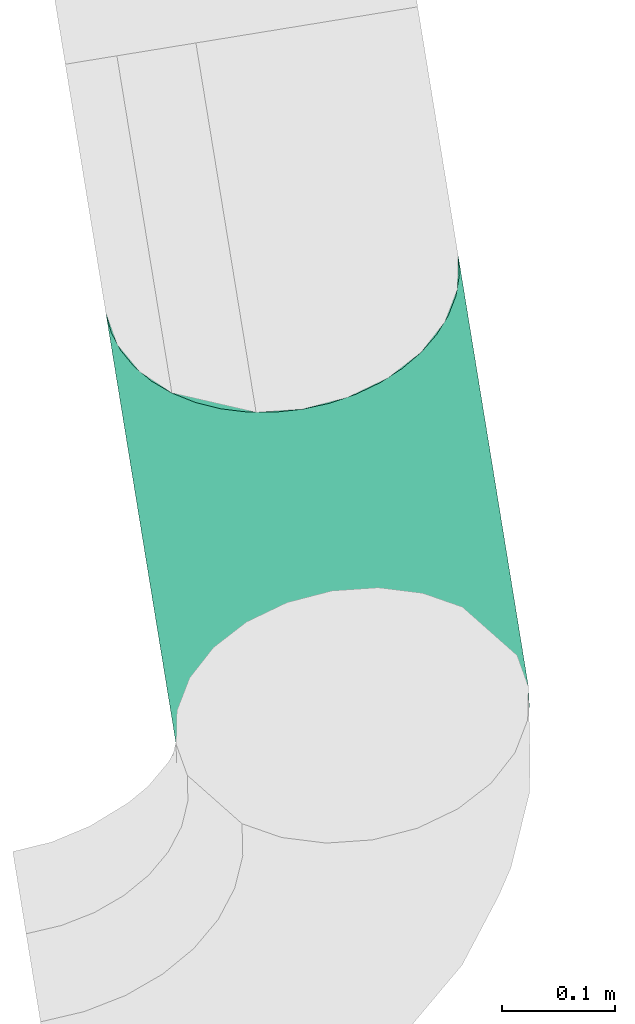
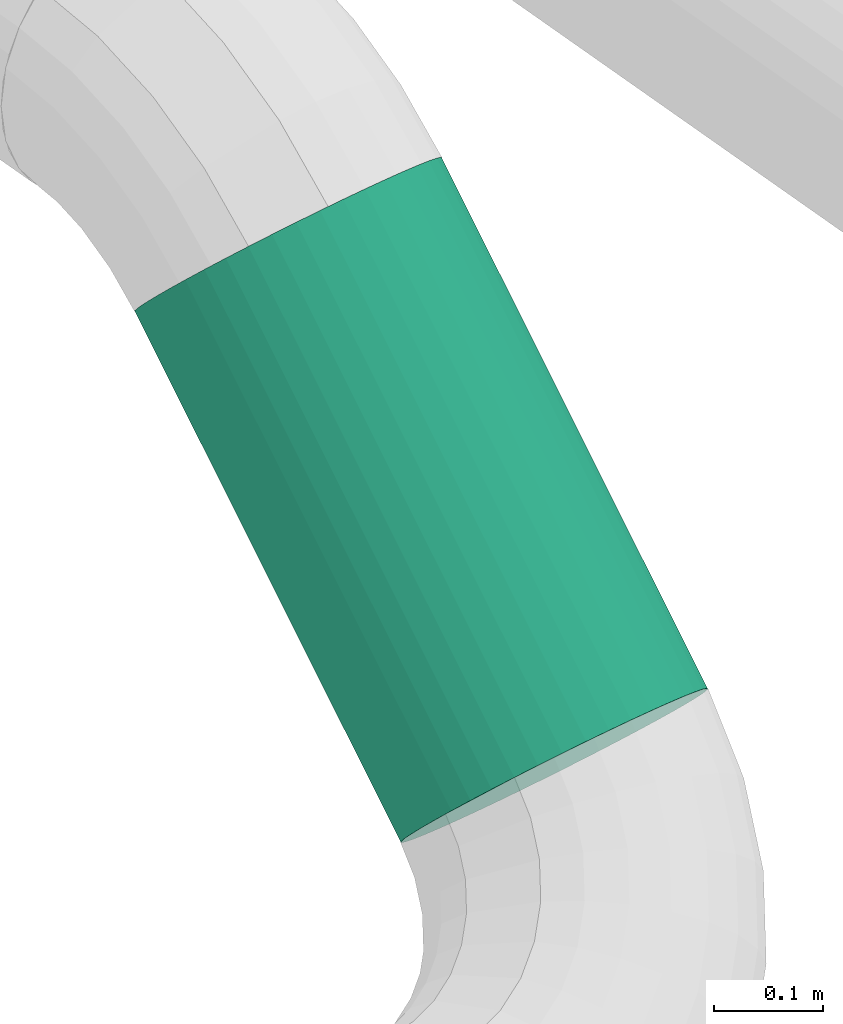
# One storey, part 6 of 15: 1 flow segment.
"""IFC2X3 building model written with IfcOpenShell, lengths in millimetres."""

from ifc_helpers import new_model, entity, si_unit, converted_unit, derived_unit, direction, frame, frame_2d, origin, origin_with_axes, place, context, subcontext, project, spatial, circle, extrude, material, type_object, element, save


model = new_model("IFC2X3")

# Units and contexts
model_context = context("Model", 3, precision=0.01, world=origin(), true_north=direction((6.12323399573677e-17, 1.0)))
plan_context = context("Plan", 3, precision=1e-05, world=origin_with_axes())
body_context = subcontext(model_context, "Body", "Model", "MODEL_VIEW")
ifc_project = project(units=[converted_unit("PLANEANGLEUNIT", "DEGREE", entity("IfcPositiveLengthMeasure", 0.0174532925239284), si_unit("PLANEANGLEUNIT", "RADIAN"), dimensions=[0, 0, 0, 0, 0, 0, 0]), si_unit("AREAUNIT", "SQUARE_METRE"), si_unit("LENGTHUNIT", "METRE", prefix="MILLI"), si_unit("MASSUNIT", "GRAM", prefix="KILO"), si_unit("POWERUNIT", "WATT"), si_unit("PRESSUREUNIT", "PASCAL", prefix="KILO"), si_unit("FORCEUNIT", "NEWTON", prefix="KILO"), si_unit("ELECTRICVOLTAGEUNIT", "VOLT"), si_unit("ELECTRICCURRENTUNIT", "AMPERE"), si_unit("THERMODYNAMICTEMPERATUREUNIT", "DEGREE_CELSIUS"), si_unit("TIMEUNIT", "SECOND"), si_unit("VOLUMEUNIT", "CUBIC_METRE"), derived_unit("LINEARVELOCITYUNIT", [(si_unit("LENGTHUNIT", "METRE"), 1), (si_unit("TIMEUNIT", "SECOND"), -1)]), derived_unit("VOLUMETRICFLOWRATEUNIT", [(si_unit("VOLUMEUNIT", "CUBIC_METRE"), 1), (si_unit("TIMEUNIT", "SECOND"), -1)]), derived_unit("THERMALTRANSMITTANCEUNIT", [(si_unit("POWERUNIT", "WATT"), 1), (si_unit("THERMODYNAMICTEMPERATUREUNIT", "KELVIN"), -1), (si_unit("AREAUNIT", "SQUARE_METRE"), -1)]), derived_unit("SOUNDPRESSUREUNIT", [(si_unit("PRESSUREUNIT", "PASCAL"), 1)])], contexts=[model_context, plan_context])

# Site, building, storey
site_placement = place(None, frame((5.09380697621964e-08, 5.80416781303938e-08, 0.0), z_axis=(0.0, 0.0, 1.0), x_axis=(-0.160806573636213, 0.986985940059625, 0.0)))
site = spatial("IfcSite", under=ifc_project, at=site_placement, Name="Default", CompositionType="ELEMENT")
building_placement = place(site_placement, frame((0.0, 0.0, 0.0), z_axis=(0.0, 0.0, 1.0), x_axis=(1.0, -2.77555756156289e-17, 0.0)))
building = spatial("IfcBuilding", under=site, at=building_placement, Name="Bygning (endres i Project Information)", CompositionType="ELEMENT")
storey_placement = place(building_placement, frame((0.0, 0.0, 51360.0000000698), z_axis=(0.0, 0.0, 1.0), x_axis=(1.0, -2.77555756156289e-17, 0.0)))
storey = spatial("IfcBuildingStorey", under=building, at=storey_placement, Name="H01-Nivå D+0,36", CompositionType="ELEMENT", Elevation=51360.0000000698)

# Flow segment
ifc_material = material(Name="3601.001 Tilluft")
duct_segment_type = type_object("IfcDuctSegmentType", Name="Round Duct:Sirkulær kanal", PredefinedType="NOTDEFINED", material=ifc_material)
flow_segment_placement = place(storey_placement, frame((0.0, 0.0, 0.0), z_axis=(0.0, 0.0, 1.0), x_axis=(1.0, -2.77555756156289e-17, 0.0)))
element("IfcFlowSegment", 1, at=flow_segment_placement, inside=storey, type_object=duct_segment_type, Name="Round Duct:Sirkulær kanal", ObjectType="Round Duct:Sirkulær kanal", context=body_context, shape_type="SweptSolid", body=[
    extrude(circle(Radius=157.5000002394, at=frame_2d((1.3167664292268e-09, 5.39054693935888e-10), x_axis=(1.0, 0.0))), frame((1007993.97109931, -355155.614985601, 3322.73863641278), z_axis=(0.70710678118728, 0.0, 0.707106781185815), x_axis=(0.0, 1.0, 0.0)), (0.0, 0.0, 1.0), 544.472220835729),
])

save(model, "model.ifc")
